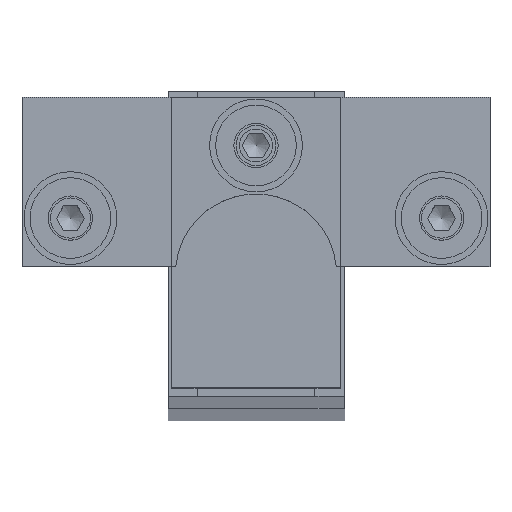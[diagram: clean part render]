
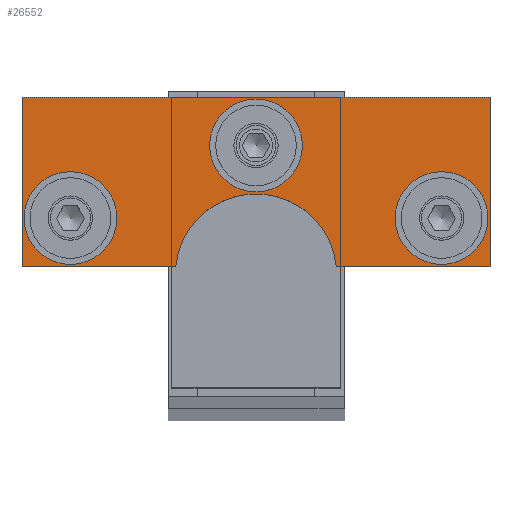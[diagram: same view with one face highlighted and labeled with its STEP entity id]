
A CAD part, top view. The second image highlights one B-rep face of the part: STEP entity #26552.
In plain terms, the highlighted planar face has unit normal (0, 0, 1).
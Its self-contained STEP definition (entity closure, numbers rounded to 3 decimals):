
#355=FACE_BOUND('',#3475,.T.);
#356=FACE_BOUND('',#3476,.T.);
#357=FACE_BOUND('',#3477,.T.);
#739=PLANE('',#28675);
#1919=FACE_OUTER_BOUND('',#3474,.T.);
#3474=EDGE_LOOP('',(#18312,#18313,#18314,#18315,#18316,#18317));
#3475=EDGE_LOOP('',(#18318));
#3476=EDGE_LOOP('',(#18319));
#3477=EDGE_LOOP('',(#18320));
#5489=LINE('',#45364,#6466);
#5490=LINE('',#45366,#6467);
#5491=LINE('',#45368,#6468);
#5492=LINE('',#45372,#6469);
#5493=LINE('',#45373,#6470);
#6466=VECTOR('',#33735,10.);
#6467=VECTOR('',#33736,10.);
#6468=VECTOR('',#33737,10.);
#6469=VECTOR('',#33740,10.);
#6470=VECTOR('',#33741,10.);
#7689=CIRCLE('',#28673,5.75);
#7691=CIRCLE('',#28676,10.);
#7692=CIRCLE('',#28677,5.75);
#7693=CIRCLE('',#28678,5.75);
#10372=VERTEX_POINT('',#45356);
#10374=VERTEX_POINT('',#45362);
#10375=VERTEX_POINT('',#45363);
#10376=VERTEX_POINT('',#45365);
#10377=VERTEX_POINT('',#45367);
#10378=VERTEX_POINT('',#45369);
#10379=VERTEX_POINT('',#45371);
#10380=VERTEX_POINT('',#45374);
#10381=VERTEX_POINT('',#45376);
#13531=EDGE_CURVE('',#10372,#10372,#7689,.T.);
#13534=EDGE_CURVE('',#10374,#10375,#5489,.T.);
#13535=EDGE_CURVE('',#10375,#10376,#5490,.T.);
#13536=EDGE_CURVE('',#10376,#10377,#5491,.T.);
#13537=EDGE_CURVE('',#10377,#10378,#7691,.T.);
#13538=EDGE_CURVE('',#10378,#10379,#5492,.T.);
#13539=EDGE_CURVE('',#10379,#10374,#5493,.T.);
#13540=EDGE_CURVE('',#10380,#10380,#7692,.T.);
#13541=EDGE_CURVE('',#10381,#10381,#7693,.T.);
#18312=ORIENTED_EDGE('',*,*,#13534,.T.);
#18313=ORIENTED_EDGE('',*,*,#13535,.T.);
#18314=ORIENTED_EDGE('',*,*,#13536,.T.);
#18315=ORIENTED_EDGE('',*,*,#13537,.T.);
#18316=ORIENTED_EDGE('',*,*,#13538,.T.);
#18317=ORIENTED_EDGE('',*,*,#13539,.T.);
#18318=ORIENTED_EDGE('',*,*,#13540,.F.);
#18319=ORIENTED_EDGE('',*,*,#13541,.F.);
#18320=ORIENTED_EDGE('',*,*,#13531,.F.);
#26552=ADVANCED_FACE('',(#1919,#355,#356,#357),#739,.T.);
#28673=AXIS2_PLACEMENT_3D('',#45357,#33728,#33729);
#28675=AXIS2_PLACEMENT_3D('',#45361,#33733,#33734);
#28676=AXIS2_PLACEMENT_3D('',#45370,#33738,#33739);
#28677=AXIS2_PLACEMENT_3D('',#45375,#33742,#33743);
#28678=AXIS2_PLACEMENT_3D('',#45377,#33744,#33745);
#33728=DIRECTION('center_axis',(0.,0.,
1.));
#33729=DIRECTION('ref_axis',(-1.,0.,0.));
#33733=DIRECTION('center_axis',(0.,0.,
1.));
#33734=DIRECTION('ref_axis',(1.,0.,0.));
#33735=DIRECTION('',(-1.,0.,0.));
#33736=DIRECTION('',(0.,-1.,0.));
#33737=DIRECTION('',(1.,0.,0.));
#33738=DIRECTION('center_axis',(0.,0.,
-1.));
#33739=DIRECTION('ref_axis',(0.995,0.1,0.));
#33740=DIRECTION('',(1.,0.,0.));
#33741=DIRECTION('',(0.,1.,0.));
#33742=DIRECTION('center_axis',(0.,0.,
1.));
#33743=DIRECTION('ref_axis',(-1.,0.,0.));
#33744=DIRECTION('center_axis',(0.,0.,
1.));
#33745=DIRECTION('ref_axis',(-1.,0.,0.));
#45356=CARTESIAN_POINT('',(39.65,22.,476.));
#45357=CARTESIAN_POINT('Origin',(33.9,22.,476.));
#45361=CARTESIAN_POINT('Origin',(10.9,27.153,476.));
#45362=CARTESIAN_POINT('',(39.9,37.,476.));
#45363=CARTESIAN_POINT('',(-18.1,37.,476.));
#45364=CARTESIAN_POINT('',(-18.1,37.,476.));
#45365=CARTESIAN_POINT('',(-18.1,16.,476.));
#45366=CARTESIAN_POINT('',(-18.1,16.,476.));
#45367=CARTESIAN_POINT('',(0.95,16.,476.));
#45368=CARTESIAN_POINT('',(0.95,16.,476.));
#45369=CARTESIAN_POINT('',(20.85,16.,476.));
#45370=CARTESIAN_POINT('Origin',(10.9,15.,476.));
#45371=CARTESIAN_POINT('',(39.9,16.,476.));
#45372=CARTESIAN_POINT('',(39.9,16.,476.));
#45373=CARTESIAN_POINT('',(39.9,37.,476.));
#45374=CARTESIAN_POINT('',(16.65,31.,476.));
#45375=CARTESIAN_POINT('Origin',(10.9,31.,476.));
#45376=CARTESIAN_POINT('',(-6.35,22.,476.));
#45377=CARTESIAN_POINT('Origin',(-12.1,22.,476.));
